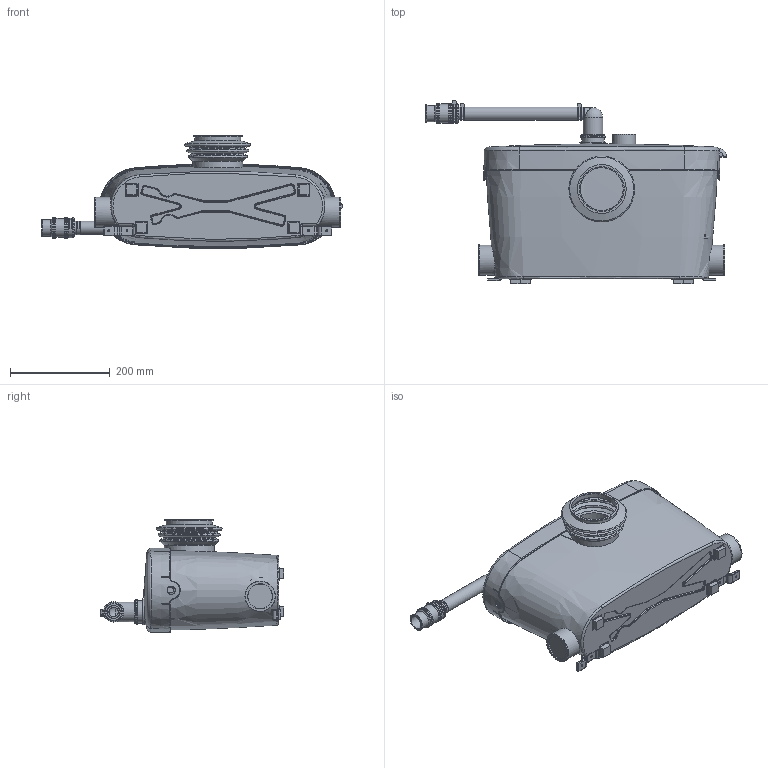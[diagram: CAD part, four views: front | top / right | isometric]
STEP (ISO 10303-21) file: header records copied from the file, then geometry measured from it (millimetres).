
FILE_DESCRIPTION (( 'STEP AP214' ), '1' );
FILE_NAME ('Saniacces 3 USA.STEP', '2018-10-16T09:40:58', ( 'VHUMBERT' ), ( '' ), 'SwSTEP 2.0', 'SolidWorks 2018', '' );
FILE_SCHEMA (( 'AUTOMOTIVE_DESIGN' ));
Length unit declared in the file: inch
Products named in the file (1): Saniacces 3 USA
Bounding box: 604.11 x 368.74 x 225.38 mm (x, y, z)
Volume: 2327879.2 mm3; surface area: 1051987.9 mm2
Topology: 1 solids, 4 shells, 1247 faces, 3030 edges, 1900 vertices
Faces by surface type: plane 553, cylinder 271, bspline 209, torus 111, cone 93, sphere 10
Full cylindrical faces by diameter (mm): 3.002 x2, 4 x4, 17 x2, 21 x1, 25.6 x1, 26.5 x3, 27.2 x2, 27.3 x1, 32 x1, 33.3 x1, 34.4 x1, 36 x1, 38 x4, 39 x1, 39.2 x1, 41 x4, 45 x2, 46 x1, 50 x1, 52 x2, 60.3 x2, 61 x2, 86 x1, 90 x1, 93 x1, 98 x1, 100 x2
Entity records: 73258 total; most frequent: CARTESIAN_POINT 30026, ORIENTED_EDGE 5752, DIRECTION 5160, EDGE_CURVE 2876, AXIS2_PLACEMENT_3D 1926, VERTEX_POINT 1858, EDGE_LOOP 1484, FACE_OUTER_BOUND 1313
